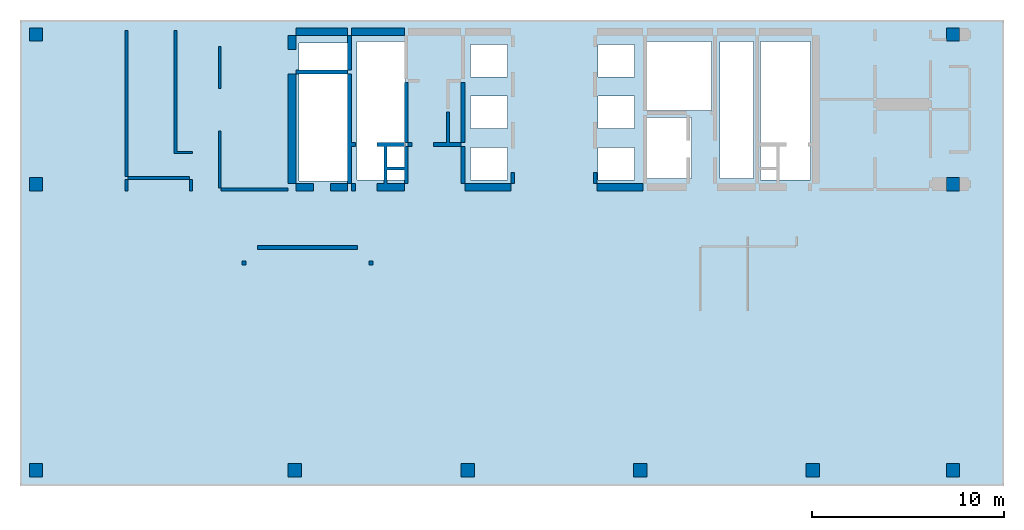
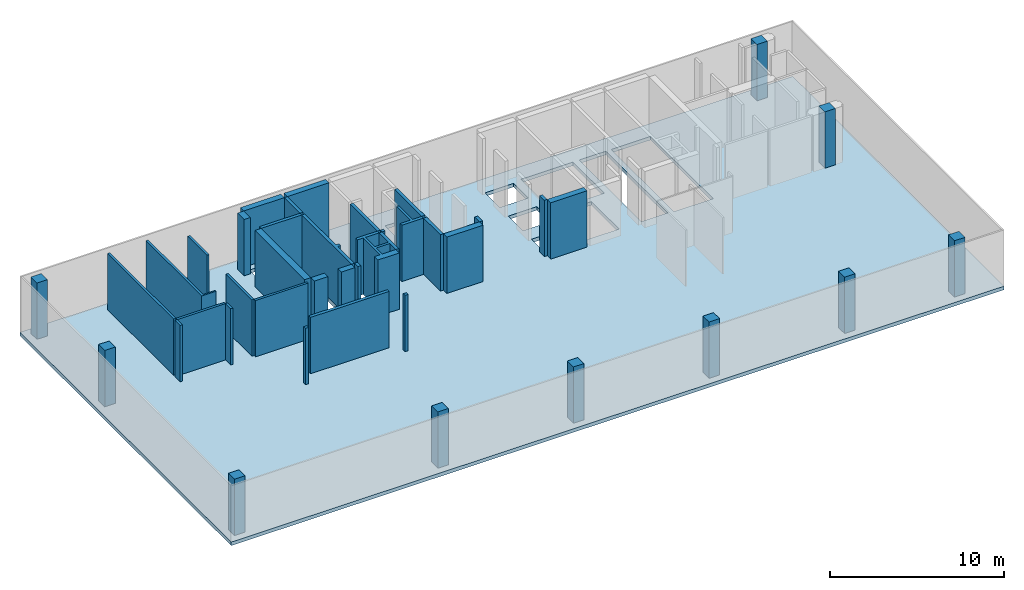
# One storey, part 1 of 4: 31 walls, 10 columns, 1 slab.
"""IFC4 building model written with IfcOpenShell, lengths in millimetres."""

from ifc_helpers import new_model, si_unit, frame, origin, place, context, project, spatial, triangles, element, save


model = new_model("IFC4")

# Units and contexts
model_context = context("Model", 3, precision=0.001, world=origin())
ifc_project = project(units=[si_unit("LENGTHUNIT", "METRE", prefix="MILLI"), si_unit("AREAUNIT", "SQUARE_METRE"), si_unit("VOLUMEUNIT", "CUBIC_METRE")], contexts=[model_context])

# Site, building, storey
site_placement = place(None, origin())
site = spatial("IfcSite", under=ifc_project, at=site_placement, Name="Site", CompositionType="ELEMENT")
building_placement = place(site_placement, origin())
building = spatial("IfcBuilding", under=site, at=building_placement, Name="INNOCEAN", CompositionType="ELEMENT")
storey_placement = place(building_placement, frame((0.0, 0.0, 38600.0)))
storey = spatial("IfcBuildingStorey", under=building, at=storey_placement, Name="F09", CompositionType="ELEMENT", Elevation=38600.0)

# Columns
column_1_placement = place(storey_placement, origin())
element("IfcColumn", 1, at=column_1_placement, inside=storey, Name="F09_Columns_F09_001", context=model_context, shape_type="Tessellation", body=[
    triangles([(40114.8, 2023.7, 0.0), (40114.8, 2023.7, 3950.0), (40114.8, 2722.3, 0.0), (40114.8, 2722.3, 3950.0), (40813.0, 2023.7, 3950.0), (40813.0, 2023.7, 0.0), (40813.0, 2722.3, 0.0), (40813.0, 2722.3, 3950.0)], [[1, 2, 3], [3, 2, 4], [5, 6, 7], [5, 7, 8], [6, 5, 1], [1, 5, 2], [8, 7, 3], [8, 3, 4], [3, 7, 1], [1, 7, 6], [8, 4, 2], [8, 2, 5]], closed=True),
])
column_2_placement = place(storey_placement, origin())
element("IfcColumn", 2, at=column_2_placement, inside=storey, Name="F09_Columns_F09_002", context=model_context, shape_type="Tessellation", body=[
    triangles([(47413.4, 24721.0, 0.0), (47413.4, 24721.0, 3950.0), (47413.4, 25419.5, 0.0), (47413.4, 25419.5, 3950.0), (48111.6, 24721.0, 3950.0), (48111.6, 24721.0, 0.0), (48111.6, 25419.5, 0.0), (48111.6, 25419.5, 3950.0)], [[1, 2, 3], [3, 2, 4], [5, 6, 7], [5, 7, 8], [6, 5, 1], [1, 5, 2], [8, 7, 3], [8, 3, 4], [1, 3, 6], [3, 7, 6], [4, 2, 5], [8, 4, 5]], closed=True),
])
column_3_placement = place(storey_placement, origin())
element("IfcColumn", 3, at=column_3_placement, inside=storey, Name="F09_Columns_F09_003", context=model_context, shape_type="Tessellation", body=[
    triangles([(47413.4, 16922.4, 0.0), (47413.4, 16922.4, 3950.0), (47413.4, 17620.9, 0.0), (47413.4, 17620.9, 3950.0), (48111.6, 16922.4, 3950.0), (48111.6, 16922.4, 0.0), (48111.6, 17620.9, 0.0), (48111.6, 17620.9, 3950.0)], [[1, 2, 3], [3, 2, 4], [5, 6, 7], [5, 7, 8], [6, 5, 1], [1, 5, 2], [8, 7, 3], [8, 3, 4], [1, 3, 6], [3, 7, 6], [4, 2, 5], [8, 4, 5]], closed=True),
])
column_4_placement = place(storey_placement, origin())
element("IfcColumn", 4, at=column_4_placement, inside=storey, Name="F09_Columns_F09_004", context=model_context, shape_type="Tessellation", body=[
    triangles([(13129.0, 2023.7, 0.0), (13129.0, 2023.7, 3950.0), (13129.0, 2722.3, 0.0), (13129.0, 2722.3, 3950.0), (13827.2, 2023.7, 3950.0), (13827.2, 2023.7, 0.0), (13827.2, 2722.3, 0.0), (13827.2, 2722.3, 3950.0)], [[1, 2, 3], [3, 2, 4], [5, 6, 7], [5, 7, 8], [6, 5, 1], [1, 5, 2], [8, 7, 3], [8, 3, 4], [3, 7, 1], [1, 7, 6], [8, 4, 2], [8, 2, 5]], closed=True),
])
column_5_placement = place(storey_placement, origin())
element("IfcColumn", 5, at=column_5_placement, inside=storey, Name="F09_Columns_F09_005", context=model_context, shape_type="Tessellation", body=[
    triangles([(47413.4, 2023.7, 0.0), (47413.4, 2023.7, 3950.0), (47413.4, 2722.3, 0.0), (47413.4, 2722.3, 3950.0), (48111.6, 2023.7, 3950.0), (48111.6, 2023.7, 0.0), (48111.6, 2722.3, 0.0), (48111.6, 2722.3, 3950.0)], [[1, 2, 3], [3, 2, 4], [5, 6, 7], [5, 7, 8], [6, 5, 1], [1, 5, 2], [8, 7, 3], [8, 3, 4], [3, 7, 1], [1, 7, 6], [8, 4, 2], [8, 2, 5]], closed=True),
])
column_6_placement = place(storey_placement, origin())
element("IfcColumn", 6, at=column_6_placement, inside=storey, Name="F09_Columns_F09_006", context=model_context, shape_type="Tessellation", body=[
    triangles([(-363.9, 2023.7, 0.0), (-363.9, 2023.7, 3950.0), (-363.9, 2722.3, 0.0), (-363.9, 2722.3, 3950.0), (334.3, 2023.7, 3950.0), (334.3, 2023.7, 0.0), (334.3, 2722.3, 0.0), (334.3, 2722.3, 3950.0)], [[1, 2, 3], [3, 2, 4], [5, 6, 7], [5, 7, 8], [6, 5, 1], [1, 5, 2], [8, 7, 3], [8, 3, 4], [3, 7, 1], [1, 7, 6], [8, 4, 2], [8, 2, 5]], closed=True),
])
column_7_placement = place(storey_placement, origin())
element("IfcColumn", 7, at=column_7_placement, inside=storey, Name="F09_Columns_F09_007", context=model_context, shape_type="Tessellation", body=[
    triangles([(-363.9, 24721.0, 0.0), (-363.9, 24721.0, 3950.0), (-363.9, 25419.5, 0.0), (-363.9, 25419.5, 3950.0), (334.3, 24721.0, 3950.0), (334.3, 24721.0, 0.0), (334.3, 25419.5, 0.0), (334.3, 25419.5, 3950.0)], [[1, 2, 3], [3, 2, 4], [5, 6, 7], [5, 7, 8], [6, 5, 1], [1, 5, 2], [8, 7, 3], [8, 3, 4], [3, 7, 1], [1, 7, 6], [8, 4, 2], [8, 2, 5]], closed=True),
])
column_8_placement = place(storey_placement, origin())
element("IfcColumn", 8, at=column_8_placement, inside=storey, Name="F09_Columns_F09_008", context=model_context, shape_type="Tessellation", body=[
    triangles([(31128.0, 2023.7, 0.0), (31128.0, 2023.7, 3950.0), (31128.0, 2722.3, 0.0), (31128.0, 2722.3, 3950.0), (31826.2, 2023.7, 3950.0), (31826.2, 2023.7, 0.0), (31826.2, 2722.3, 0.0), (31826.2, 2722.3, 3950.0)], [[1, 2, 3], [3, 2, 4], [5, 6, 7], [5, 7, 8], [6, 5, 1], [1, 5, 2], [8, 7, 3], [8, 3, 4], [3, 7, 1], [1, 7, 6], [8, 4, 2], [8, 2, 5]], closed=True),
])
column_9_placement = place(storey_placement, origin())
element("IfcColumn", 9, at=column_9_placement, inside=storey, Name="F09_Columns_F09_009", context=model_context, shape_type="Tessellation", body=[
    triangles([(22128.5, 2023.7, 0.0), (22128.5, 2023.7, 3950.0), (22128.5, 2722.3, 0.0), (22128.5, 2722.3, 3950.0), (22826.7, 2023.7, 3950.0), (22826.7, 2023.7, 0.0), (22826.7, 2722.3, 0.0), (22826.7, 2722.3, 3950.0)], [[1, 2, 3], [3, 2, 4], [5, 6, 7], [5, 7, 8], [6, 5, 1], [1, 5, 2], [8, 7, 3], [8, 3, 4], [3, 7, 1], [1, 7, 6], [8, 4, 2], [8, 2, 5]], closed=True),
])
column_10_placement = place(storey_placement, origin())
element("IfcColumn", 10, at=column_10_placement, inside=storey, Name="F09_Columns_F09_010", context=model_context, shape_type="Tessellation", body=[
    triangles([(-363.9, 16922.4, 0.0), (-363.9, 16922.4, 3950.0), (-363.9, 17620.9, 0.0), (-363.9, 17620.9, 3950.0), (334.3, 16922.4, 3950.0), (334.3, 16922.4, 0.0), (334.3, 17620.9, 0.0), (334.3, 17620.9, 3950.0)], [[1, 2, 3], [3, 2, 4], [5, 6, 7], [5, 7, 8], [6, 5, 1], [1, 5, 2], [8, 7, 3], [8, 3, 4], [3, 7, 1], [1, 7, 6], [8, 4, 2], [8, 2, 5]], closed=True),
])

# Slab
slab_placement = place(storey_placement, origin())
element("IfcSlab", 11, at=slab_placement, inside=storey, Name="F09_Slab_F09_001", context=model_context, shape_type="Tessellation", body=[
    triangles([(-846.215139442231, 25825.974025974, 0.0), (50420.3187250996, 25825.974025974, -250.0), (-846.215139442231, 25825.974025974, -250.0), (50420.3187250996, 25825.974025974, 0.0), (-846.215139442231, 1552.38095238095, 0.0), (-846.215139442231, 1552.38095238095, -250.0), (50420.3187250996, 1552.38095238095, 0.0), (50420.3187250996, 1552.38095238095, -250.0), (34130.6772908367, 20745.4545454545, -250.0), (31733.0677290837, 20745.4545454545, 0.0), (31733.0677290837, 20745.4545454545, -250.0), (34130.6772908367, 20745.4545454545, 0.0), (31733.0677290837, 17570.1298701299, 0.0), (31733.0677290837, 17570.1298701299, -250.0), (34130.6772908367, 17570.1298701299, 0.0), (34130.6772908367, 17570.1298701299, -250.0), (31168.9243027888, 19193.0735930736, 0.0), (29264.9402390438, 19193.0735930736, 0.0), (29264.9402390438, 19193.0735930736, -250.0), (31168.9243027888, 19193.0735930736, -250.0), (31168.9243027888, 17499.5670995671, 0.0), (31168.9243027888, 17499.5670995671, -250.0), (29264.9402390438, 17499.5670995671, 0.0), (29264.9402390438, 17499.5670995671, -250.0), (31168.9243027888, 21874.4588744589, 0.0), (29264.9402390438, 21874.4588744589, 0.0), (29264.9402390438, 21874.4588744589, -250.0), (31168.9243027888, 21874.4588744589, -250.0), (29264.9402390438, 20180.9523809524, 0.0), (29264.9402390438, 20180.9523809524, -250.0), (31168.9243027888, 20180.9523809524, 0.0), (31168.9243027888, 20180.9523809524, -250.0), (24540.2390438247, 19193.0735930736, -250.0), (22636.2549800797, 19193.0735930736, 0.0), (22636.2549800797, 19193.0735930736, -250.0), (24540.2390438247, 19193.0735930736, 0.0), (22636.2549800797, 17499.5670995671, 0.0), (22636.2549800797, 17499.5670995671, -250.0), (24540.2390438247, 17499.5670995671, 0.0), (24540.2390438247, 17499.5670995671, -250.0), (24540.2390438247, 21874.4588744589, -250.0), (22636.2549800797, 21874.4588744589, 0.0), (22636.2549800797, 21874.4588744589, -250.0), (24540.2390438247, 21874.4588744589, 0.0), (22636.2549800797, 20180.9523809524, 0.0), (22636.2549800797, 20180.9523809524, -250.0), (24540.2390438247, 20180.9523809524, 0.0), (24540.2390438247, 20180.9523809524, -250.0), (16219.1235059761, 24626.4069264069, 0.0), (13680.4780876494, 24626.4069264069, 0.0), (13680.4780876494, 24626.4069264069, -250.0), (16219.1235059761, 24626.4069264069, -250.0), (13680.4780876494, 17429.0043290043, 0.0), (13680.4780876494, 17429.0043290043, -250.0), (16219.1235059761, 17429.0043290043, 0.0), (16219.1235059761, 17429.0043290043, -250.0), (40336.2549800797, 24696.9696969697, -250.0), (37727.0916334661, 24696.9696969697, 0.0), (37727.0916334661, 24696.9696969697, -250.0), (40336.2549800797, 24696.9696969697, 0.0), (37727.0916334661, 17499.5670995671, 0.0), (37727.0916334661, 17499.5670995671, -250.0), (40336.2549800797, 17499.5670995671, 0.0), (40336.2549800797, 17499.5670995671, -250.0), (37374.5019920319, 24696.9696969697, 0.0), (35611.5537848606, 24696.9696969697, 0.0), (35611.5537848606, 24696.9696969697, -250.0), (37374.5019920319, 24696.9696969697, -250.0), (35611.5537848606, 17570.1298701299, 0.0), (35611.5537848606, 17570.1298701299, -250.0), (37374.5019920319, 17570.1298701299, 0.0), (37374.5019920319, 17570.1298701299, -250.0), (35188.4462151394, 24696.9696969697, 0.0), (31733.0677290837, 24696.9696969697, 0.0), (31733.0677290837, 24696.9696969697, -250.0), (35188.4462151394, 24696.9696969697, -250.0), (31733.0677290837, 21098.2683982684, 0.0), (31733.0677290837, 21098.2683982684, -250.0), (35188.4462151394, 21098.2683982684, 0.0), (35188.4462151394, 21098.2683982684, -250.0), (31168.9243027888, 24555.8441558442, 0.0), (29264.9402390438, 24555.8441558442, 0.0), (29264.9402390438, 24555.8441558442, -250.0), (31168.9243027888, 24555.8441558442, -250.0), (29264.9402390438, 22862.3376623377, 0.0), (29264.9402390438, 22862.3376623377, -250.0), (31168.9243027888, 22862.3376623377, 0.0), (31168.9243027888, 22862.3376623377, -250.0), (19251.3944223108, 24696.9696969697, 0.0), (16712.7490039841, 24696.9696969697, 0.0), (16712.7490039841, 24696.9696969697, -250.0), (19251.3944223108, 24696.9696969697, -250.0), (16712.7490039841, 17499.5670995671, 0.0), (16712.7490039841, 17499.5670995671, -250.0), (19251.3944223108, 17499.5670995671, 0.0), (19251.3944223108, 17499.5670995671, -250.0), (24540.2390438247, 24555.8441558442, -250.0), (22636.2549800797, 24555.8441558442, 0.0), (22636.2549800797, 24555.8441558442, -250.0), (24540.2390438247, 24555.8441558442, 0.0), (22636.2549800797, 22862.3376623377, 0.0), (22636.2549800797, 22862.3376623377, -250.0), (24540.2390438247, 22862.3376623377, 0.0), (24540.2390438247, 22862.3376623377, -250.0)], [[1, 2, 3], [1, 4, 2], [5, 1, 6], [6, 1, 3], [4, 7, 2], [2, 7, 8], [7, 6, 8], [7, 5, 6], [9, 10, 11], [12, 10, 9], [10, 13, 14], [10, 14, 11], [15, 12, 9], [15, 9, 16], [14, 15, 16], [13, 15, 14], [17, 18, 19], [17, 19, 20], [21, 17, 20], [21, 20, 22], [23, 21, 22], [23, 22, 24], [18, 23, 24], [18, 24, 19], [25, 26, 27], [25, 27, 28], [26, 29, 30], [26, 30, 27], [31, 25, 28], [31, 28, 32], [29, 31, 32], [29, 32, 30], [33, 34, 35], [36, 34, 33], [34, 37, 38], [34, 38, 35], [39, 36, 33], [39, 33, 40], [38, 39, 40], [37, 39, 38], [41, 42, 43], [44, 42, 41], [42, 45, 46], [42, 46, 43], [47, 44, 41], [47, 41, 48], [46, 47, 48], [45, 47, 46], [49, 50, 51], [49, 51, 52], [50, 53, 54], [50, 54, 51], [55, 49, 52], [55, 52, 56], [53, 55, 56], [53, 56, 54], [57, 58, 59], [60, 58, 57], [58, 61, 62], [58, 62, 59], [63, 60, 57], [63, 57, 64], [62, 63, 64], [61, 63, 62], [65, 66, 67], [65, 67, 68], [66, 69, 70], [66, 70, 67], [71, 65, 68], [71, 68, 72], [69, 71, 72], [69, 72, 70], [73, 74, 75], [73, 75, 76], [74, 77, 78], [74, 78, 75], [79, 73, 76], [79, 76, 80], [77, 79, 80], [77, 80, 78], [81, 82, 83], [81, 83, 84], [82, 85, 86], [82, 86, 83], [87, 81, 84], [87, 84, 88], [85, 87, 88], [85, 88, 86], [89, 90, 91], [89, 91, 92], [90, 93, 94], [90, 94, 91], [95, 89, 92], [95, 92, 96], [93, 95, 96], [93, 96, 94], [97, 98, 99], [100, 98, 97], [98, 101, 102], [98, 102, 99], [103, 100, 97], [103, 97, 104], [102, 103, 104], [101, 103, 102], [4, 63, 7], [63, 61, 7], [61, 69, 7], [71, 69, 61], [69, 15, 7], [4, 60, 63], [13, 21, 15], [15, 21, 7], [79, 12, 69], [69, 12, 15], [13, 17, 21], [21, 23, 7], [17, 10, 31], [12, 77, 10], [10, 77, 31], [66, 73, 79], [31, 18, 17], [77, 25, 31], [31, 29, 18], [77, 87, 25], [23, 39, 7], [74, 81, 87], [25, 85, 26], [87, 85, 25], [29, 36, 18], [18, 36, 23], [23, 36, 39], [74, 82, 81], [26, 47, 29], [29, 47, 36], [26, 44, 47], [36, 45, 34], [47, 45, 36], [34, 95, 37], [45, 95, 34], [85, 103, 26], [26, 103, 44], [103, 42, 44], [45, 42, 95], [85, 100, 103], [82, 100, 85], [103, 101, 42], [93, 55, 95], [39, 5, 7], [37, 5, 39], [95, 5, 37], [55, 5, 95], [55, 53, 5], [42, 89, 95], [101, 89, 42], [98, 89, 101], [90, 49, 93], [93, 49, 55], [90, 50, 49], [50, 1, 53], [53, 1, 5], [4, 1, 60], [60, 1, 58], [58, 1, 65], [65, 1, 66], [66, 1, 73], [73, 1, 74], [74, 1, 82], [82, 1, 100], [100, 1, 98], [98, 1, 89], [89, 1, 90], [90, 1, 50], [13, 10, 17], [69, 66, 79], [65, 71, 58], [58, 71, 61], [77, 74, 87], [79, 77, 12], [64, 2, 8], [62, 64, 8], [70, 62, 8], [70, 72, 62], [16, 70, 8], [57, 2, 64], [22, 14, 16], [22, 16, 8], [9, 80, 70], [9, 70, 16], [20, 14, 22], [24, 22, 8], [11, 20, 32], [78, 9, 11], [78, 11, 32], [76, 67, 80], [19, 32, 20], [28, 78, 32], [30, 32, 19], [88, 78, 28], [40, 24, 8], [84, 75, 88], [86, 28, 27], [86, 88, 28], [33, 30, 19], [33, 19, 24], [33, 24, 40], [83, 75, 84], [48, 27, 30], [48, 30, 33], [41, 27, 48], [46, 33, 35], [46, 48, 33], [96, 35, 38], [96, 46, 35], [104, 86, 27], [104, 27, 41], [43, 104, 41], [43, 46, 96], [97, 86, 104], [97, 83, 86], [102, 104, 43], [56, 94, 96], [6, 40, 8], [6, 38, 40], [6, 96, 38], [6, 56, 96], [54, 56, 6], [92, 43, 96], [92, 102, 43], [92, 99, 102], [52, 91, 94], [52, 94, 56], [51, 91, 52], [3, 51, 54], [3, 54, 6], [3, 2, 57], [3, 57, 59], [3, 59, 68], [3, 68, 67], [3, 67, 76], [3, 76, 75], [3, 75, 83], [3, 83, 97], [3, 97, 99], [3, 99, 92], [3, 92, 91], [3, 91, 51], [11, 14, 20], [67, 70, 80], [72, 68, 59], [72, 59, 62], [75, 78, 88], [78, 80, 9]], closed=True),
])

# Walls
wall_1_placement = place(storey_placement, origin())
element("IfcWall", 12, at=wall_1_placement, inside=storey, Name="F09_Walls_F09_001", context=model_context, shape_type="Tessellation", body=[
    triangles([(10933.1, 13073.9, 0.0), (10933.1, 13277.1, 0.0), (10933.1, 13277.1, 3950.0), (10933.1, 13073.9, 3950.0), (10730.0, 13073.9, 0.0), (10730.0, 13073.9, 3950.0), (10730.0, 13277.1, 0.0), (10730.0, 13277.1, 3950.0)], [[1, 2, 3], [1, 3, 4], [5, 1, 4], [5, 4, 6], [7, 5, 6], [7, 6, 8], [2, 7, 8], [2, 8, 3], [7, 2, 1], [7, 1, 5], [3, 8, 4], [4, 8, 6]], closed=True),
])
wall_2_placement = place(storey_placement, origin())
element("IfcWall", 13, at=wall_2_placement, inside=storey, Name="F09_Walls_F09_002", context=model_context, shape_type="Tessellation", body=[
    triangles([(17533.6, 13073.9, 0.0), (17533.6, 13277.1, 0.0), (17533.6, 13277.1, 3950.0), (17533.6, 13073.9, 3950.0), (17330.5, 13073.9, 0.0), (17330.5, 13073.9, 3950.0), (17330.5, 13277.1, 0.0), (17330.5, 13277.1, 3950.0)], [[1, 2, 3], [1, 3, 4], [5, 1, 4], [5, 4, 6], [7, 5, 6], [7, 6, 8], [2, 7, 8], [2, 8, 3], [2, 1, 5], [7, 2, 5], [4, 3, 6], [3, 8, 6]], closed=True),
])
wall_3_placement = place(storey_placement, origin())
element("IfcWall", 14, at=wall_3_placement, inside=storey, Name="F09_Walls_F09_003", context=model_context, shape_type="Tessellation", body=[
    triangles([(16733.9, 13874.1, 0.0), (16733.9, 14077.3, 0.0), (16733.9, 14077.3, 3950.0), (16733.9, 13874.1, 3950.0), (11529.7, 13874.1, 0.0), (11529.7, 13874.1, 3950.0), (11529.7, 14077.3, 0.0), (11529.7, 14077.3, 3950.0)], [[1, 2, 3], [1, 3, 4], [5, 1, 4], [5, 4, 6], [7, 5, 6], [7, 6, 8], [2, 7, 8], [2, 8, 3], [7, 2, 1], [7, 1, 5], [3, 8, 4], [4, 8, 6]], closed=True),
])
wall_4_placement = place(storey_placement, origin())
element("IfcWall", 15, at=wall_4_placement, inside=storey, Name="F09_Walls_F09_004", context=model_context, shape_type="Tessellation", body=[
    triangles([(13129.0, 16922.4, 0.0), (13129.0, 17074.8, 0.0), (13129.0, 17074.8, 3950.0), (13129.0, 16922.4, 3950.0), (9638.4, 16922.4, 3950.0), (9638.4, 16922.4, 0.0), (9638.4, 17074.8, 0.0), (9638.4, 17074.8, 3950.0)], [[1, 2, 3], [1, 3, 4], [1, 4, 5], [6, 1, 5], [7, 6, 5], [7, 5, 8], [7, 8, 3], [2, 7, 3], [7, 2, 1], [7, 1, 6], [3, 8, 4], [4, 8, 5]], closed=True),
])
wall_5_placement = place(storey_placement, origin())
element("IfcWall", 16, at=wall_5_placement, inside=storey, Name="F09_Walls_F09_005", context=model_context, shape_type="Tessellation", body=[
    triangles([(16226.2, 17316.1, 0.0), (16226.2, 17316.1, 3950.0), (16226.2, 16922.4, 3950.0), (16226.2, 16922.4, 0.0), (15337.6, 16922.4, 0.0), (15337.6, 16922.4, 3950.0), (15337.6, 17316.1, 3950.0), (15337.6, 17316.1, 0.0)], [[1, 2, 3], [4, 1, 3], [5, 4, 3], [5, 3, 6], [5, 6, 7], [8, 5, 7], [1, 8, 7], [1, 7, 2], [8, 1, 4], [8, 4, 5], [2, 7, 3], [3, 7, 6]], closed=True),
])
wall_6_placement = place(storey_placement, origin())
element("IfcWall", 17, at=wall_6_placement, inside=storey, Name="F09_Walls_F09_006", context=model_context, shape_type="Tessellation", body=[
    triangles([(16632.4, 17316.1, 0.0), (16632.4, 17316.1, 3950.0), (16632.4, 16922.4, 3950.0), (16632.4, 16922.4, 0.0), (16429.3, 16922.4, 3950.0), (16429.3, 16922.4, 0.0), (16429.3, 17316.1, 3950.0), (16429.3, 17316.1, 0.0)], [[1, 2, 3], [4, 1, 3], [4, 3, 5], [6, 4, 5], [6, 5, 7], [8, 6, 7], [8, 7, 2], [1, 8, 2], [8, 1, 4], [8, 4, 6], [2, 7, 3], [3, 7, 5]], closed=True),
])
wall_7_placement = place(storey_placement, origin())
element("IfcWall", 18, at=wall_7_placement, inside=storey, Name="F09_Walls_F09_007", context=model_context, shape_type="Tessellation", body=[
    triangles([(14436.4, 17316.1, 0.0), (14436.4, 17316.1, 3950.0), (14436.4, 16922.4, 3950.0), (14436.4, 16922.4, 0.0), (13535.2, 16922.4, 0.0), (13535.2, 16922.4, 3950.0), (13535.2, 17316.1, 3950.0), (13535.2, 17316.1, 0.0)], [[1, 2, 3], [4, 1, 3], [5, 4, 3], [5, 3, 6], [5, 6, 7], [8, 5, 7], [1, 8, 7], [1, 7, 2], [8, 1, 4], [8, 4, 5], [2, 7, 3], [3, 7, 6]], closed=True),
])
wall_8_placement = place(storey_placement, origin())
element("IfcWall", 19, at=wall_8_placement, inside=storey, Name="F09_Walls_F09_008", context=model_context, shape_type="Tessellation", body=[
    triangles([(17749.4, 16922.4, 0.0), (17749.4, 16922.4, 3950.0), (17749.4, 17316.1, 3950.0), (17749.4, 17316.1, 0.0), (19183.7, 16922.4, 0.0), (19183.7, 16922.4, 3950.0), (19183.7, 17316.1, 0.0), (19183.7, 17316.1, 3950.0), (19374.1, 17316.1, 0.0), (19374.1, 17316.1, 3950.0), (19374.1, 19246.7, 0.0), (19374.1, 19246.7, 3950.0), (19183.7, 19246.7, 0.0), (19183.7, 19246.7, 3950.0), (19183.7, 19449.9, 0.0), (19183.7, 19449.9, 3950.0), (17749.4, 19449.9, 0.0), (17749.4, 19449.9, 3950.0), (17749.4, 19246.7, 0.0), (17749.4, 19246.7, 3950.0), (18130.2, 19246.7, 0.0), (18130.2, 19246.7, 3950.0), (18130.2, 19245.0, 0.0), (18130.2, 19245.0, 3950.0), (18130.0, 19245.0, 0.0), (18130.0, 19245.0, 3950.0), (18130.0, 17316.1, 0.0), (18130.0, 17316.1, 3950.0), (18282.5, 17316.1, 0.0), (18282.5, 17316.1, 3950.0), (18282.5, 18014.7, 0.0), (18282.5, 18014.7, 3950.0), (19183.7, 18014.7, 0.0), (19183.7, 18014.7, 3950.0), (19183.7, 18167.1, 0.0), (19183.7, 18167.1, 3950.0), (18282.5, 18167.1, 0.0), (18282.5, 18167.1, 3950.0), (18282.5, 19246.7, 0.0), (18282.5, 19246.7, 3950.0)], [[1, 2, 3], [4, 1, 3], [1, 5, 6], [1, 6, 2], [7, 8, 6], [5, 7, 6], [7, 9, 10], [7, 10, 8], [9, 11, 12], [9, 12, 10], [11, 13, 14], [11, 14, 12], [13, 15, 16], [13, 16, 14], [15, 17, 18], [15, 18, 16], [17, 19, 20], [17, 20, 18], [21, 22, 20], [19, 21, 20], [21, 23, 24], [21, 24, 22], [23, 25, 26], [23, 26, 24], [25, 27, 28], [25, 28, 26], [27, 4, 3], [27, 3, 28], [7, 29, 30], [7, 30, 8], [29, 31, 32], [29, 32, 30], [31, 33, 34], [31, 34, 32], [33, 7, 8], [33, 8, 34], [13, 35, 36], [13, 36, 14], [35, 37, 38], [35, 38, 36], [37, 39, 40], [37, 40, 38], [39, 13, 14], [39, 14, 40], [33, 9, 7], [35, 9, 33], [29, 7, 5], [1, 29, 5], [27, 29, 1], [4, 27, 1], [31, 35, 33], [31, 29, 27], [11, 9, 35], [37, 35, 31], [13, 11, 35], [39, 15, 13], [23, 39, 37], [25, 23, 37], [21, 39, 23], [17, 21, 19], [17, 15, 39], [17, 39, 21], [27, 25, 37], [27, 37, 31], [10, 34, 8], [10, 36, 34], [8, 30, 6], [30, 2, 6], [30, 28, 2], [28, 3, 2], [36, 32, 34], [30, 32, 28], [10, 12, 36], [36, 38, 32], [12, 14, 36], [16, 40, 14], [40, 24, 38], [24, 26, 38], [40, 22, 24], [22, 18, 20], [16, 18, 40], [40, 18, 22], [26, 28, 38], [38, 28, 32]], closed=True),
])
wall_9_placement = place(storey_placement, origin())
element("IfcWall", 20, at=wall_9_placement, inside=storey, Name="F09_Walls_F09_009", context=model_context, shape_type="Tessellation", body=[
    triangles([(4789.6, 16922.4, 0.0), (4789.6, 17519.3, 0.0), (4789.6, 17519.3, 3950.0), (4789.6, 16922.4, 3950.0), (4637.3, 16922.4, 0.0), (4637.3, 16922.4, 3950.0), (4637.3, 17519.3, 0.0), (4637.3, 17519.3, 3950.0)], [[1, 2, 3], [1, 3, 4], [5, 1, 4], [5, 4, 6], [7, 5, 6], [7, 6, 8], [2, 7, 8], [2, 8, 3], [7, 2, 1], [7, 1, 5], [3, 8, 4], [4, 8, 6]], closed=True),
])
wall_10_placement = place(storey_placement, origin())
element("IfcWall", 21, at=wall_10_placement, inside=storey, Name="F09_Walls_F09_010", context=model_context, shape_type="Tessellation", body=[
    triangles([(8140.6, 16922.4, 0.0), (8140.6, 17519.3, 0.0), (8140.6, 17519.3, 3950.0), (8140.6, 16922.4, 3950.0), (7988.3, 16922.4, 0.0), (7988.3, 16922.4, 3950.0), (7988.3, 17519.3, 0.0), (7988.3, 17519.3, 3950.0)], [[1, 2, 3], [1, 3, 4], [5, 1, 4], [5, 4, 6], [7, 5, 6], [7, 6, 8], [2, 7, 8], [2, 8, 3], [7, 2, 1], [7, 1, 5], [3, 8, 4], [4, 8, 6]], closed=True),
])
wall_11_placement = place(storey_placement, origin())
element("IfcWall", 22, at=wall_11_placement, inside=storey, Name="F09_Walls_F09_011", context=model_context, shape_type="Tessellation", body=[
    triangles([(7988.3, 17519.3, 0.0), (7988.3, 17671.7, 0.0), (7988.3, 17671.7, 3950.0), (7988.3, 17519.3, 3950.0), (4789.6, 17519.3, 0.0), (4789.6, 17519.3, 3950.0), (4789.6, 17671.7, 0.0), (4789.6, 17671.7, 3950.0)], [[1, 2, 3], [1, 3, 4], [5, 1, 4], [5, 4, 6], [7, 5, 6], [7, 6, 8], [2, 7, 8], [2, 8, 3], [7, 2, 1], [7, 1, 5], [3, 8, 4], [4, 8, 6]], closed=True),
])
wall_12_placement = place(storey_placement, origin())
element("IfcWall", 23, at=wall_12_placement, inside=storey, Name="F09_Walls_F09_012", context=model_context, shape_type="Tessellation", body=[
    triangles([(16226.2, 23019.0, 0.0), (16226.2, 19449.9, 0.0), (16226.2, 19449.9, 3950.0), (16226.2, 23019.0, 3950.0), (16429.3, 23019.0, 0.0), (16429.3, 23019.0, 3950.0), (16429.3, 19449.9, 0.0), (16429.3, 19449.9, 3950.0), (16632.4, 19449.9, 3950.0), (16632.4, 19449.9, 0.0), (16632.4, 19246.7, 0.0), (16632.4, 19246.7, 3950.0), (16429.3, 19246.7, 3950.0), (16429.3, 19246.7, 0.0), (16429.3, 17316.1, 0.0), (16429.3, 17316.1, 3950.0), (16226.2, 17316.1, 0.0), (16226.2, 17316.1, 3950.0), (16226.2, 19246.7, 0.0), (16226.2, 19246.7, 3950.0)], [[1, 2, 3], [1, 3, 4], [5, 1, 4], [5, 4, 6], [7, 5, 6], [7, 6, 8], [7, 8, 9], [10, 7, 9], [11, 10, 9], [11, 9, 12], [11, 12, 13], [14, 11, 13], [15, 14, 13], [15, 13, 16], [17, 15, 16], [17, 16, 18], [19, 17, 18], [19, 18, 20], [2, 19, 20], [2, 20, 3], [19, 14, 15], [19, 15, 17], [7, 10, 11], [7, 11, 14], [2, 7, 14], [2, 14, 19], [5, 7, 2], [1, 5, 2], [13, 20, 16], [16, 20, 18], [9, 8, 12], [12, 8, 13], [8, 3, 13], [13, 3, 20], [8, 6, 3], [6, 4, 3]], closed=True),
])
wall_13_placement = place(storey_placement, origin())
element("IfcWall", 24, at=wall_13_placement, inside=storey, Name="F09_Walls_F09_013", context=model_context, shape_type="Tessellation", body=[
    triangles([(9638.4, 17074.8, 0.0), (9638.4, 20046.9, 0.0), (9638.4, 20046.9, 3950.0), (9638.4, 17074.8, 3950.0), (9486.1, 17074.8, 0.0), (9486.1, 17074.8, 3950.0), (9486.1, 20046.9, 0.0), (9486.1, 20046.9, 3950.0)], [[1, 2, 3], [1, 3, 4], [5, 1, 4], [5, 4, 6], [7, 5, 6], [7, 6, 8], [2, 7, 8], [2, 8, 3], [7, 2, 1], [7, 1, 5], [3, 8, 4], [4, 8, 6]], closed=True),
])
wall_14_placement = place(storey_placement, origin())
element("IfcWall", 25, at=wall_14_placement, inside=storey, Name="F09_Walls_F09_014", context=model_context, shape_type="Tessellation", body=[
    triangles([(7340.0, 18865.0, 0.0), (8140.0, 18865.0, 0.0), (8140.0, 18865.0, 3950.0), (7340.0, 18865.0, 3950.0), (7340.0, 18865.7, 3950.0), (7340.0, 18865.7, 0.0), (7188.6, 18865.7, 0.0), (7188.6, 18865.7, 3950.0), (7188.6, 25267.1, 3950.0), (7188.6, 25267.1, 0.0), (7340.9, 25267.1, 0.0), (7340.9, 25267.1, 3950.0), (7340.9, 18967.3, 0.0), (7340.9, 18967.3, 3950.0), (8140.6, 18967.3, 0.0), (8140.6, 18967.3, 3950.0), (8140.6, 18865.7, 0.0), (8140.6, 18865.7, 3950.0), (8140.0, 18865.7, 0.0), (8140.0, 18865.7, 3950.0)], [[1, 2, 3], [1, 3, 4], [1, 4, 5], [6, 1, 5], [7, 6, 5], [7, 5, 8], [9, 7, 8], [10, 7, 9], [11, 10, 9], [11, 9, 12], [13, 11, 12], [13, 12, 14], [15, 13, 14], [15, 14, 16], [17, 15, 16], [17, 16, 18], [19, 17, 18], [19, 18, 20], [19, 20, 3], [2, 19, 3], [15, 17, 19], [1, 19, 2], [6, 19, 1], [13, 15, 19], [13, 19, 6], [7, 13, 6], [10, 11, 13], [10, 13, 7], [18, 16, 20], [20, 4, 3], [20, 5, 4], [16, 14, 20], [20, 14, 5], [14, 8, 5], [12, 9, 14], [14, 9, 8]], closed=True),
])
wall_15_placement = place(storey_placement, origin())
element("IfcWall", 26, at=wall_15_placement, inside=storey, Name="F09_Walls_F09_015", context=model_context, shape_type="Tessellation", body=[
    triangles([(13535.2, 17316.1, 0.0), (13535.2, 23019.0, 0.0), (13535.2, 23019.0, 3950.0), (13535.2, 17316.1, 3950.0), (13129.0, 17316.1, 3950.0), (13129.0, 17316.1, 0.0), (13129.0, 23019.0, 0.0), (13129.0, 23019.0, 3950.0)], [[1, 2, 3], [1, 3, 4], [1, 4, 5], [6, 1, 5], [7, 6, 5], [7, 5, 8], [7, 8, 3], [2, 7, 3], [7, 2, 1], [7, 1, 6], [3, 8, 4], [4, 8, 5]], closed=True),
])
wall_16_placement = place(storey_placement, origin())
element("IfcWall", 27, at=wall_16_placement, inside=storey, Name="F09_Walls_F09_016", context=model_context, shape_type="Tessellation", body=[
    triangles([(4789.6, 17671.7, 0.0), (4789.6, 25267.1, 0.0), (4789.6, 25267.1, 3950.0), (4789.6, 17671.7, 3950.0), (4637.3, 17671.7, 0.0), (4637.3, 17671.7, 3950.0), (4637.3, 25267.1, 0.0), (4637.3, 25267.1, 3950.0)], [[1, 2, 3], [1, 3, 4], [5, 1, 4], [5, 4, 6], [7, 5, 6], [7, 6, 8], [2, 7, 8], [2, 8, 3], [7, 2, 1], [7, 1, 5], [3, 8, 4], [4, 8, 6]], closed=True),
])
wall_17_placement = place(storey_placement, origin())
element("IfcWall", 28, at=wall_17_placement, inside=storey, Name="F09_Walls_F09_017", context=model_context, shape_type="Tessellation", body=[
    triangles([(16226.2, 23019.0, 0.0), (16226.2, 23222.2, 0.0), (16226.2, 23222.2, 3950.0), (16226.2, 23019.0, 3950.0), (13535.2, 23019.0, 0.0), (13535.2, 23019.0, 3950.0), (13535.2, 23222.2, 0.0), (13535.2, 23222.2, 3950.0)], [[1, 2, 3], [1, 3, 4], [5, 1, 4], [5, 4, 6], [7, 5, 6], [7, 6, 8], [2, 7, 8], [2, 8, 3], [7, 2, 1], [7, 1, 5], [3, 8, 4], [4, 8, 6]], closed=True),
])
wall_18_placement = place(storey_placement, origin())
element("IfcWall", 29, at=wall_18_placement, inside=storey, Name="F09_Walls_F09_018", context=model_context, shape_type="Tessellation", body=[
    triangles([(9638.4, 22244.2, 0.0), (9638.4, 24454.2, 0.0), (9638.4, 24454.2, 3950.0), (9638.4, 22244.2, 3950.0), (9486.1, 22244.2, 0.0), (9486.1, 22244.2, 3950.0), (9486.1, 24454.2, 0.0), (9486.1, 24454.2, 3950.0)], [[1, 2, 3], [1, 3, 4], [5, 1, 4], [5, 4, 6], [7, 5, 6], [7, 6, 8], [2, 7, 8], [2, 8, 3], [7, 2, 1], [7, 1, 5], [3, 8, 4], [4, 8, 6]], closed=True),
])
wall_19_placement = place(storey_placement, origin())
element("IfcWall", 30, at=wall_19_placement, inside=storey, Name="F09_Walls_F09_020", context=model_context, shape_type="Tessellation", body=[
    triangles([(16226.2, 25025.8, 0.0), (16226.2, 23222.2, 0.0), (16226.2, 23222.2, 3950.0), (16226.2, 25025.8, 3950.0), (16429.3, 25025.8, 0.0), (16429.3, 25025.8, 3950.0), (16429.3, 23222.2, 0.0), (16429.3, 23222.2, 3950.0)], [[1, 2, 3], [1, 3, 4], [5, 1, 4], [5, 4, 6], [7, 5, 6], [7, 6, 8], [2, 7, 8], [2, 8, 3], [1, 5, 7], [1, 7, 2], [6, 4, 8], [8, 4, 3]], closed=True),
])
wall_20_placement = place(storey_placement, origin())
element("IfcWall", 31, at=wall_20_placement, inside=storey, Name="F09_Walls_F09_021", context=model_context, shape_type="Tessellation", body=[
    triangles([(13535.2, 24276.4, 0.0), (13535.2, 25025.8, 0.0), (13535.2, 25025.8, 3950.0), (13535.2, 24276.4, 3950.0), (13129.0, 24276.4, 3950.0), (13129.0, 24276.4, 0.0), (13129.0, 25025.8, 0.0), (13129.0, 25025.8, 3950.0)], [[1, 2, 3], [1, 3, 4], [1, 4, 5], [6, 1, 5], [7, 6, 5], [7, 5, 8], [7, 8, 3], [2, 7, 3], [2, 1, 6], [7, 2, 6], [4, 3, 5], [3, 8, 5]], closed=True),
])
wall_21_placement = place(storey_placement, origin())
element("IfcWall", 32, at=wall_21_placement, inside=storey, Name="F09_Walls_F09_022", context=model_context, shape_type="Tessellation", body=[
    triangles([(13535.2, 25419.5, 0.0), (13535.2, 25025.8, 0.0), (13535.2, 25025.8, 3950.0), (13535.2, 25419.5, 3950.0), (16226.2, 25419.5, 0.0), (16226.2, 25419.5, 3950.0), (16226.2, 25025.8, 0.0), (16226.2, 25025.8, 3950.0)], [[1, 2, 3], [1, 3, 4], [5, 1, 4], [5, 4, 6], [7, 5, 6], [7, 6, 8], [2, 7, 8], [2, 8, 3], [2, 5, 7], [1, 5, 2], [6, 3, 8], [6, 4, 3]], closed=True),
])
wall_22_placement = place(storey_placement, origin())
element("IfcWall", 33, at=wall_22_placement, inside=storey, Name="F09_Walls_F09_023", context=model_context, shape_type="Tessellation", body=[
    triangles([(19183.7, 25025.8, 0.0), (19183.7, 25419.5, 0.0), (19183.7, 25419.5, 3950.0), (19183.7, 25025.8, 3950.0), (16429.3, 25025.8, 0.0), (16429.3, 25025.8, 3950.0), (16429.3, 25419.5, 0.0), (16429.3, 25419.5, 3950.0)], [[1, 2, 3], [1, 3, 4], [5, 1, 4], [5, 4, 6], [7, 5, 6], [7, 6, 8], [2, 7, 8], [2, 8, 3], [7, 2, 1], [7, 1, 5], [3, 8, 4], [4, 8, 6]], closed=True),
])
wall_23_placement = place(storey_placement, origin())
element("IfcWall", 34, at=wall_23_placement, inside=storey, Name="F09_Walls_F09_024", context=model_context, shape_type="Tessellation", body=[
    triangles([(31623.1, 17316.1, 0.0), (31623.1, 17316.1, 3950.0), (31623.1, 16922.4, 3950.0), (31623.1, 16922.4, 0.0), (29224.0, 16922.4, 0.0), (29224.0, 16922.4, 3950.0), (29224.0, 17316.1, 3950.0), (29224.0, 17316.1, 0.0)], [[1, 2, 3], [4, 1, 3], [5, 4, 3], [5, 3, 6], [5, 6, 7], [8, 5, 7], [1, 8, 7], [1, 7, 2], [8, 1, 4], [8, 4, 5], [2, 7, 3], [3, 7, 6]], closed=True),
])
wall_24_placement = place(storey_placement, origin())
element("IfcWall", 35, at=wall_24_placement, inside=storey, Name="F09_Walls_F09_025", context=model_context, shape_type="Tessellation", body=[
    triangles([(24730.6, 17316.1, 0.0), (24730.6, 17316.1, 3950.0), (24730.6, 16922.4, 3950.0), (24730.6, 16922.4, 0.0), (22331.6, 16922.4, 0.0), (22331.6, 16922.4, 3950.0), (22331.6, 17316.1, 3950.0), (22331.6, 17316.1, 0.0)], [[1, 2, 3], [4, 1, 3], [5, 4, 3], [5, 3, 6], [5, 6, 7], [8, 5, 7], [1, 8, 7], [1, 7, 2], [8, 1, 4], [8, 4, 5], [2, 7, 3], [3, 7, 6]], closed=True),
])
wall_25_placement = place(storey_placement, origin())
element("IfcWall", 36, at=wall_25_placement, inside=storey, Name="F09_Walls_F09_027", context=model_context, shape_type="Tessellation", body=[
    triangles([(29224.0, 17875.0, 0.0), (29224.0, 17875.0, 3950.0), (29224.0, 17316.1, 3950.0), (29224.0, 17316.1, 0.0), (29020.9, 17316.1, 0.0), (29020.9, 17316.1, 3950.0), (29020.9, 17875.0, 3950.0), (29020.9, 17875.0, 0.0)], [[1, 2, 3], [4, 1, 3], [5, 4, 3], [5, 3, 6], [5, 6, 7], [8, 5, 7], [1, 8, 7], [1, 7, 2], [8, 1, 4], [8, 4, 5], [2, 7, 3], [3, 7, 6]], closed=True),
])
wall_26_placement = place(storey_placement, origin())
element("IfcWall", 37, at=wall_26_placement, inside=storey, Name="F09_Walls_F09_028", context=model_context, shape_type="Tessellation", body=[
    triangles([(24921.0, 17875.0, 0.0), (24921.0, 17875.0, 3950.0), (24921.0, 17316.1, 3950.0), (24921.0, 17316.1, 0.0), (24730.6, 17316.1, 0.0), (24730.6, 17316.1, 3950.0), (24730.6, 17875.0, 3950.0), (24730.6, 17875.0, 0.0)], [[1, 2, 3], [4, 1, 3], [5, 4, 3], [5, 3, 6], [5, 6, 7], [8, 5, 7], [1, 8, 7], [1, 7, 2], [8, 1, 4], [8, 4, 5], [2, 7, 3], [3, 7, 6]], closed=True),
])
wall_27_placement = place(storey_placement, origin())
element("IfcWall", 38, at=wall_27_placement, inside=storey, Name="F09_Walls_F09_029", context=model_context, shape_type="Tessellation", body=[
    triangles([(22331.6, 17316.1, 0.0), (22331.6, 19246.7, 0.0), (22331.6, 19246.7, 3950.0), (22331.6, 17316.1, 3950.0), (22128.5, 17316.1, 0.0), (22128.5, 17316.1, 3950.0), (22128.5, 19246.7, 0.0), (22128.5, 19246.7, 3950.0)], [[1, 2, 3], [1, 3, 4], [5, 1, 4], [5, 4, 6], [7, 5, 6], [7, 6, 8], [2, 7, 8], [2, 8, 3], [7, 2, 1], [7, 1, 5], [3, 8, 4], [4, 8, 6]], closed=True),
])
wall_28_placement = place(storey_placement, origin())
element("IfcWall", 39, at=wall_28_placement, inside=storey, Name="F09_Walls_F09_031", context=model_context, shape_type="Tessellation", body=[
    triangles([(19374.1, 19449.9, 0.0), (19374.1, 19449.9, 3950.0), (19577.2, 19449.9, 3950.0), (19577.2, 19449.9, 0.0), (19577.2, 19246.7, 0.0), (19577.2, 19246.7, 3950.0), (19374.1, 19246.7, 3950.0), (19374.1, 19246.7, 0.0)], [[1, 2, 3], [4, 1, 3], [5, 4, 3], [5, 3, 6], [5, 6, 7], [8, 5, 7], [1, 8, 7], [1, 7, 2], [1, 4, 5], [1, 5, 8], [3, 2, 6], [6, 2, 7]], closed=True),
])
wall_29_placement = place(storey_placement, origin())
element("IfcWall", 40, at=wall_29_placement, inside=storey, Name="F09_Walls_F09_032", context=model_context, shape_type="Tessellation", body=[
    triangles([(21366.9, 21024.9, 0.0), (21366.9, 19449.9, 0.0), (21366.9, 19449.9, 3950.0), (21366.9, 21024.9, 3950.0), (21519.3, 21024.9, 0.0), (21519.3, 21024.9, 3950.0), (21519.3, 19449.9, 0.0), (21519.3, 19449.9, 3950.0), (22128.5, 19449.9, 0.0), (22128.5, 19449.9, 3950.0), (22128.5, 19246.7, 0.0), (22128.5, 19246.7, 3950.0), (20694.2, 19246.7, 0.0), (20694.2, 19246.7, 3950.0), (20694.2, 19449.9, 0.0), (20694.2, 19449.9, 3950.0)], [[1, 2, 3], [1, 3, 4], [5, 1, 4], [5, 4, 6], [7, 5, 6], [7, 6, 8], [9, 7, 8], [9, 8, 10], [11, 9, 10], [11, 10, 12], [13, 11, 12], [13, 12, 14], [15, 13, 14], [15, 14, 16], [2, 15, 16], [2, 16, 3], [7, 9, 11], [2, 7, 11], [13, 2, 11], [15, 2, 13], [1, 5, 7], [1, 7, 2], [10, 8, 12], [8, 3, 12], [3, 14, 12], [3, 16, 14], [6, 4, 8], [8, 4, 3]], closed=True),
])
wall_30_placement = place(storey_placement, origin())
element("IfcWall", 41, at=wall_30_placement, inside=storey, Name="F09_Walls_F09_037", context=model_context, shape_type="Tessellation", body=[
    triangles([(19374.1, 19449.9, 0.0), (19374.1, 22574.4, 0.0), (19374.1, 22574.4, 3950.0), (19374.1, 19449.9, 3950.0), (19183.7, 19449.9, 0.0), (19183.7, 19449.9, 3950.0), (19183.7, 22574.4, 0.0), (19183.7, 22574.4, 3950.0)], [[1, 2, 3], [1, 3, 4], [5, 1, 4], [5, 4, 6], [7, 5, 6], [7, 6, 8], [2, 7, 8], [2, 8, 3], [2, 1, 5], [7, 2, 5], [4, 3, 6], [3, 8, 6]], closed=True),
])
wall_31_placement = place(storey_placement, origin())
element("IfcWall", 42, at=wall_31_placement, inside=storey, Name="F09_Walls_F09_038", context=model_context, shape_type="Tessellation", body=[
    triangles([(22331.6, 19449.9, 0.0), (22331.6, 22574.4, 0.0), (22331.6, 22574.4, 3950.0), (22331.6, 19449.9, 3950.0), (22128.5, 19449.9, 0.0), (22128.5, 19449.9, 3950.0), (22128.5, 22574.4, 0.0), (22128.5, 22574.4, 3950.0)], [[1, 2, 3], [1, 3, 4], [5, 1, 4], [5, 4, 6], [7, 5, 6], [7, 6, 8], [2, 7, 8], [2, 8, 3], [2, 1, 5], [7, 2, 5], [4, 3, 6], [3, 8, 6]], closed=True),
])

save(model, "model.ifc")
